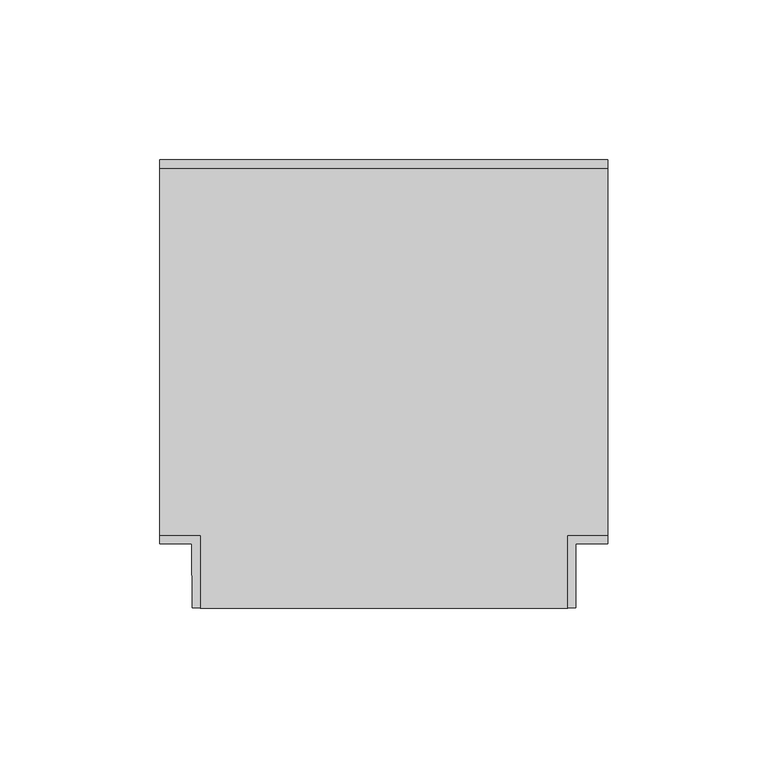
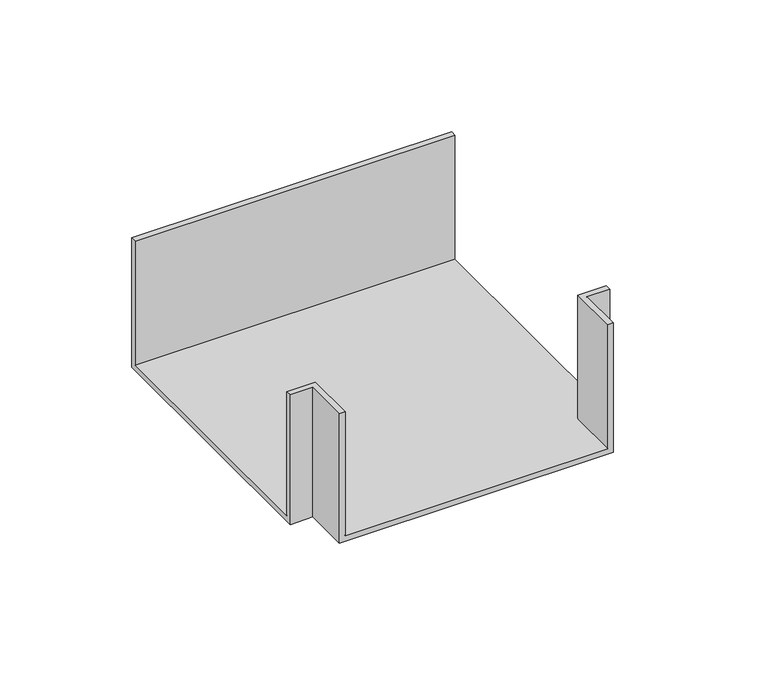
"""IFC4 building model written with IfcOpenShell, lengths in millimetres: cable carrier fitting geometry, КНС_ТройникNTAN_ILC_DKC : Тройник/отвод."""

import ifcopenshell
import ifcopenshell.guid

model = None  # the IFC model being written
_history = None  # IfcOwnerHistory: only IFC2X3 demands one
_inside = {}  # id of a spatial element -> (the spatial element, [elements in it])
_under = {}  # id of a project, library or spatial element -> (it, [spatial elements below it])
_declared = {}  # id of a project -> (the project, [libraries it declares])
_typed = {}  # id of a type object -> (the type object, [elements of that type])
_made_of = {}  # id of a material, layer set ... -> (it, [elements and type objects made of it])


def new_model(schema):
    """Start an empty IFC model of exactly this schema.

    Asked for "IFC4X3", IfcOpenShell would pick the latest addendum, in which some entities
    have other attributes; the version numbers below select the first issue.
    IFC2X3 requires an IfcOwnerHistory on every rooted entity: one is made here for all.
    """
    global model, _history
    if schema == "IFC4X3":
        model = ifcopenshell.file(schema_version=(4, 3, 0, 0))
    else:
        model = ifcopenshell.file(schema=schema)
    _inside.clear()
    _under.clear()
    _declared.clear()
    _typed.clear()
    _made_of.clear()
    _history = None
    if model.schema == "IFC2X3":
        org = make("IfcOrganization", Name="unknown")
        user = make(
            "IfcPersonAndOrganization",
            ThePerson=make("IfcPerson", FamilyName="unknown"),
            TheOrganization=org,
        )
        app = make(
            "IfcApplication",
            ApplicationDeveloper=org,
            Version="unknown",
            ApplicationFullName="unknown",
            ApplicationIdentifier="unknown",
        )
        _history = make(
            "IfcOwnerHistory",
            OwningUser=user,
            OwningApplication=app,
            ChangeAction="ADDED",
            CreationDate=0,
        )
    return model


def make(cls, **values):
    """One entity of the class cls with the attributes given. An attribute that is None is left unset."""
    return model.create_entity(
        cls, **{name: value for name, value in values.items() if value is not None}
    )


def rooted(cls, **values):
    """An entity with a GlobalId (a new one), such as an element, a storey or a relation."""
    return make(cls, GlobalId=ifcopenshell.guid.new(), OwnerHistory=_history, **values)


def si_unit(unit_type, name, prefix=None):
    """IfcSIUnit, for example si_unit("LENGTHUNIT", "METRE", prefix="MILLI")."""
    return make("IfcSIUnit", UnitType=unit_type, Prefix=prefix, Name=name)


def assignment(units):
    """IfcUnitAssignment: the units of a project."""
    return None if units is None else make("IfcUnitAssignment", Units=units)


def point(xyz):
    """IfcCartesianPoint."""
    return None if xyz is None else make("IfcCartesianPoint", Coordinates=xyz)


def direction(xyz):
    """IfcDirection."""
    return None if xyz is None else make("IfcDirection", DirectionRatios=xyz)


def frame(location, z_axis=None, x_axis=None):
    """IfcAxis2Placement3D, a coordinate frame: its origin and axes. An axis left out is left unset."""
    return make(
        "IfcAxis2Placement3D",
        Location=point(location),
        Axis=direction(z_axis),
        RefDirection=direction(x_axis),
    )


def origin():
    """The frame at (0, 0, 0) with its axes left unset."""
    return frame((0.0, 0.0, 0.0))


def place(relative_to, where):
    """IfcLocalPlacement: puts the frame where relative to a parent placement (None: the world)."""
    return make(
        "IfcLocalPlacement", PlacementRelTo=relative_to, RelativePlacement=where
    )


def context(
    kind, dimensions, precision=None, world=None, true_north=None, identifier=None
):
    """IfcGeometricRepresentationContext, for example the 3D "Model" context."""
    return make(
        "IfcGeometricRepresentationContext",
        ContextIdentifier=identifier,
        ContextType=kind,
        CoordinateSpaceDimension=dimensions,
        Precision=precision,
        WorldCoordinateSystem=world,
        TrueNorth=true_north,
    )


def project(units=None, contexts=None):
    """IfcProject with its units and contexts."""
    return rooted(
        "IfcProject",
        Name="project",
        RepresentationContexts=contexts,
        UnitsInContext=assignment(units),
    )


def spatial(cls, under=None, at=None, **own):
    """A site, building, storey or space (cls), placed at a placement, below another one or the project."""
    s = rooted(cls, ObjectPlacement=at, **own)
    if under is not None:
        _under.setdefault(under.id(), (under, []))[1].append(s)
    return s


def faces_of(points, faces, orient=None, outer=None):
    """IfcFace entities. A face is a list of loops; a loop is a list of indices into points, from 0.

    orient and outer hold one flag for each loop. By default every Orientation is true, the
    first loop of a face is its IfcFaceOuterBound and the others are IfcFaceBound.
    """
    made = []
    for i, loops in enumerate(faces):
        bounds = []
        for j, loop in enumerate(loops):
            is_outer = j == 0 if outer is None else outer[i][j]
            bounds.append(
                make(
                    "IfcFaceOuterBound" if is_outer else "IfcFaceBound",
                    Bound=make("IfcPolyLoop", Polygon=[points[k] for k in loop]),
                    Orientation=True if orient is None else orient[i][j],
                )
            )
        made.append(make("IfcFace", Bounds=bounds))
    return made


def faceted_brep(points, faces, orient=None, outer=None, voids=None):
    """IfcFacetedBrep: a solid bounded by flat faces; with voids (closed shells), ...WithVoids."""
    shared = [point(p) for p in points]
    hull = make("IfcClosedShell", CfsFaces=faces_of(shared, faces, orient, outer))
    if voids is None:
        return make("IfcFacetedBrep", Outer=hull)
    return make(
        "IfcFacetedBrepWithVoids",
        Outer=hull,
        Voids=[
            make(cls, CfsFaces=faces_of(shared, fs, o, b)) for cls, fs, o, b in voids
        ],
    )


def shape(context_of_items, identifier, shape_type, items):
    """IfcShapeRepresentation: the items that make up one representation, for example the "Body"."""
    return make(
        "IfcShapeRepresentation",
        ContextOfItems=context_of_items,
        RepresentationIdentifier=identifier,
        RepresentationType=shape_type,
        Items=items,
    )


def source(mapping_origin, context_of_items, identifier, shape_type, items):
    """IfcRepresentationMap: a shape defined once, which mapped items show again and again."""
    return make(
        "IfcRepresentationMap",
        MappingOrigin=mapping_origin,
        MappedRepresentation=shape(context_of_items, identifier, shape_type, items),
    )


def transform(
    local_origin,
    x_axis=None,
    y_axis=None,
    z_axis=None,
    scale=None,
    scale2=None,
    scale3=None,
    uniform=True,
):
    """IfcCartesianTransformationOperator3D, or its non-uniform kind. x_axis, y_axis, z_axis: its Axis1, 2, 3."""
    if uniform:
        return make(
            "IfcCartesianTransformationOperator3D",
            Axis1=direction(x_axis),
            Axis2=direction(y_axis),
            LocalOrigin=point(local_origin),
            Scale=scale,
            Axis3=direction(z_axis),
        )
    return make(
        "IfcCartesianTransformationOperator3DnonUniform",
        Axis1=direction(x_axis),
        Axis2=direction(y_axis),
        LocalOrigin=point(local_origin),
        Scale=scale,
        Axis3=direction(z_axis),
        Scale2=scale2,
        Scale3=scale3,
    )


def mapped(mapping_source, mapping_target):
    """IfcMappedItem: shows the shape of a source again, moved by a transform."""
    return make(
        "IfcMappedItem", MappingSource=mapping_source, MappingTarget=mapping_target
    )


def made_of(thing, what):
    """Note that an element or type object is made of a material, layer set ...; save() writes the relation."""
    if what is not None:
        _made_of.setdefault(what.id(), (what, []))[1].append(thing)
    return thing


def element(
    cls,
    number,
    at=None,
    inside=None,
    cuts=None,
    type_object=None,
    material=None,
    context=None,
    identifier="Body",
    shape_type=None,
    held_by="IfcProductDefinitionShape",
    body=None,
    shapes=None,
    **own,
):
    """One element of the class cls, such as IfcWall. Its Tag is "e" and its number.

    at: its placement. inside: the storey or other place that contains it. cuts: it is an
    opening in that element (IfcRelVoidsElement). A single representation is given by context,
    identifier, shape_type and body (its items); several are given by shapes. held_by: the class
    of the entity that holds the representations. save() writes the other relations.
    """
    e = rooted(cls, Tag="e%d" % number, ObjectPlacement=at, **own)
    if body is not None:
        shapes = [shape(context, identifier, shape_type, body)]
    if shapes is not None:
        e.Representation = make(held_by, Representations=shapes)
    if inside is not None:
        _inside.setdefault(inside.id(), (inside, []))[1].append(e)
    if cuts is not None:
        rooted(
            "IfcRelVoidsElement", RelatingBuildingElement=cuts, RelatedOpeningElement=e
        )
    if type_object is not None:
        _typed.setdefault(type_object.id(), (type_object, []))[1].append(e)
    return made_of(e, material)


def aggregate(whole, parts):
    """IfcRelAggregates: a whole, such as a stair, and the parts it consists of."""
    return rooted("IfcRelAggregates", RelatingObject=whole, RelatedObjects=parts)


def save(model, path):
    """Write the relations noted so far, then the file.

    IfcRelAggregates (storeys below a building ...), IfcRelContainedInSpatialStructure (elements
    in a storey), IfcRelDefinesByType, IfcRelAssociatesMaterial and IfcRelDeclares: one each for
    every whole, place, type object, material and project.
    """
    for whole, parts in _under.values():
        aggregate(whole, parts)
    for where, things in _inside.values():
        rooted(
            "IfcRelContainedInSpatialStructure",
            RelatedElements=things,
            RelatingStructure=where,
        )
    for kind, things in _typed.values():
        rooted("IfcRelDefinesByType", RelatedObjects=things, RelatingType=kind)
    for what, things in _made_of.values():
        rooted("IfcRelAssociatesMaterial", RelatedObjects=things, RelatingMaterial=what)
    for by, libraries in _declared.values():
        rooted("IfcRelDeclares", RelatingContext=by, RelatedDefinitions=libraries)
    model.write(path)


def cable_carrier_fitting_e9df8fe0(model_context):
    return source(origin(), model_context, "Body", "Brep", [
        faceted_brep([(70.0, 57.46, -27.46), (-70.0, 57.46, -27.46), (-70.0, -57.46, -27.46), (-57.46, -57.46, -27.46), (-57.46, -80.0, -27.46), (57.46, -80.0, -27.46), (57.46, -57.46, -27.46), (70.0, -57.46, -27.46), (70.0, 60.0, -30.0), (70.0, -60.0, -30.0), (60.0, -60.0, -30.0), (60.0, -80.0, -30.0), (-60.0, -80.0, -30.0), (-60.0, -60.0, -30.0), (-70.0, -60.0, -30.0), (-70.0, 60.0, -30.0), (70.0, 60.0, 30.0), (70.0, 57.46, 30.0), (70.0, -57.46, 30.0), (70.0, -60.0, 30.0), (59.96, -60.0, 30.0), (60.0, -80.0, 30.0), (57.46, -80.0, 30.0), (-57.46, -80.0, 30.0), (-59.96, -80.0, 30.0), (-60.0, -60.0, 30.0), (-70.0, -60.0, 30.0), (-70.0, -57.46, 30.0), (-70.0, 57.46, 30.0), (-70.0, 60.0, 30.0), (57.46, -57.46, 30.0), (-57.46, -57.46, 30.0)], [[[0, 1, 2, 3, 4, 5, 6, 7]], [[8, 9, 10, 11, 12, 13, 14, 15]], [[8, 16, 17, 0, 7, 18, 19, 9]], [[19, 20, 10, 9]], [[20, 21, 11, 10]], [[21, 22, 5, 4, 23, 24, 12, 11]], [[24, 25, 13, 12]], [[25, 26, 14, 13]], [[26, 27, 2, 1, 28, 29, 15, 14]], [[29, 16, 8, 15]], [[20, 19, 18, 30, 22, 21]], [[25, 24, 23, 31, 27, 26]], [[29, 28, 17, 16]], [[31, 3, 2, 27]], [[23, 4, 3, 31]], [[30, 6, 5, 22]], [[18, 7, 6, 30]], [[28, 1, 0, 17]]]),
    ])


if __name__ == "__main__":
    model = new_model("IFC4")
    model_context = context("Model", 3, world=origin())
    ifc_project = project(units=[si_unit("LENGTHUNIT", "METRE", prefix="MILLI")], contexts=[model_context])
    site = spatial("IfcSite", under=ifc_project)
    building = spatial("IfcBuilding", under=site)
    placement = place(None, origin())
    cable_carrier_fitting_shape = cable_carrier_fitting_e9df8fe0(model_context)
    element("IfcCableCarrierFitting", 1, ObjectType="КНС_ТройникNTAN_ILC_DKC : Тройник/отвод", at=placement, inside=building, context=model_context, shape_type="MappedRepresentation", body=[
        mapped(cable_carrier_fitting_shape, transform((0.0, 0.0, 0.0), x_axis=(1.0, 0.0, 0.0), y_axis=(0.0, 1.0, 0.0), z_axis=(0.0, 0.0, 1.0))),
    ])
    save(model, "model.ifc")
